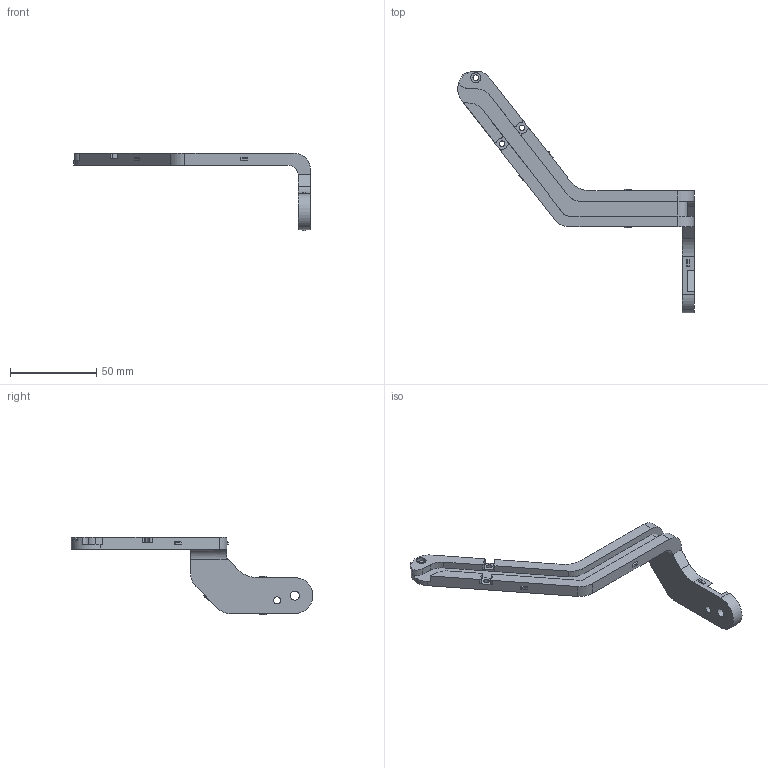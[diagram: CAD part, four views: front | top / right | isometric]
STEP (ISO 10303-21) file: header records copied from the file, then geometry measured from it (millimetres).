
FILE_DESCRIPTION(/* description */ ('STEP AP242','CAx-IF Rec.Pracs.---Representation and Presentation of Product Manufacturing Information (PMI)---4.0---2014-10-13','CAx-IF Rec.Pracs.---3D Tessellated Geometry---0.4---2014-09-14','2;1'),/* implementation_level */ '2;1');
FILE_NAME(/* name */ '687e6a78f344454910d47b10',/* time_stamp */ '2025-07-21T16:27:37Z',/* author */ (''),/* organization */ (''),/* preprocessor_version */ 'ST-DEVELOPER v20',/* originating_system */ 'ONSHAPE BY PTC INC, 1.201',/* authorisation */ ' ');
FILE_SCHEMA (('AP242_MANAGED_MODEL_BASED_3D_ENGINEERING_MIM_LF { 1 0 10303 442 1 1 4 }'));
Length unit declared in the file: metre
Products named in the file (1): Left Arm
Bounding box: 137.55 x 140.49 x 45.2 mm (x, y, z)
Volume: 27839.8 mm3; surface area: 16039.8 mm2
Topology: 1 solids, 1 shells, 127 faces, 353 edges, 236 vertices
Faces by surface type: plane 71, cylinder 54, torus 2
Full cylindrical faces by diameter (mm): 3.2 x3, 4.1 x1, 5.3 x1, 5.8 x1
Entity records: 4095 total; most frequent: CARTESIAN_POINT 719, DIRECTION 711, ORIENTED_EDGE 690, EDGE_CURVE 345, AXIS2_PLACEMENT_3D 242, VERTEX_POINT 234, LINE 227, VECTOR 227
